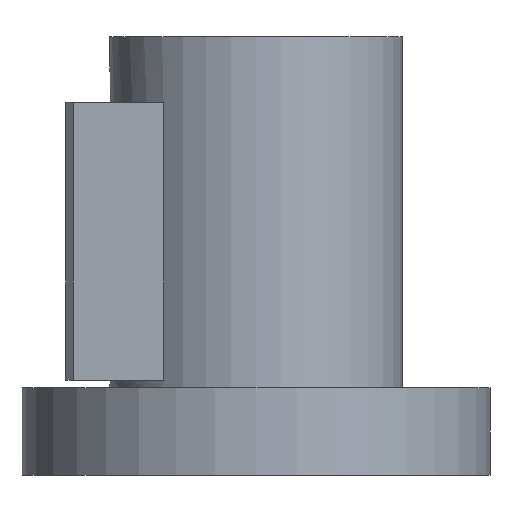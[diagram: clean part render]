
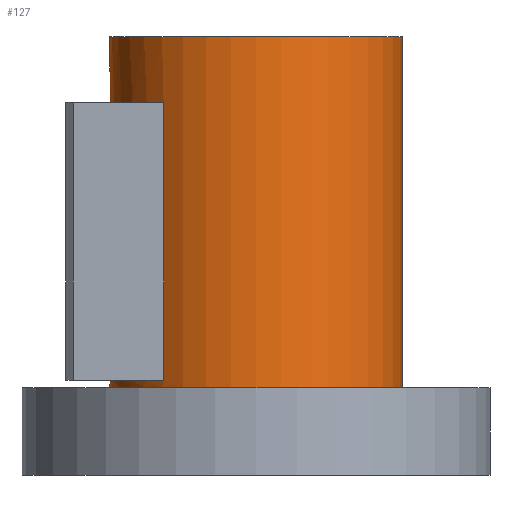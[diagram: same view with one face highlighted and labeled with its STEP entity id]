
A CAD part, front view. The second image highlights one B-rep face of the part: STEP entity #127.
In plain terms, the highlighted cylindrical face has radius 20 mm (diameter 40 mm), a full revolution.
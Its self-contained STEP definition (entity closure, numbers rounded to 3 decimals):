
#127=ADVANCED_FACE('',(#200,#201,#202),#155,.T.);
#155=CYLINDRICAL_SURFACE('',#508,20.);
#168=LINE('',#698,#184);
#169=LINE('',#702,#185);
#184=VECTOR('',#568,1.);
#185=VECTOR('',#571,1.);
#200=FACE_BOUND('',#245,.T.);
#201=FACE_BOUND('',#246,.T.);
#202=FACE_BOUND('',#247,.T.);
#245=EDGE_LOOP('',(#305));
#246=EDGE_LOOP('',(#306));
#247=EDGE_LOOP('',(#307,#308,#309,#310));
#305=ORIENTED_EDGE('',*,*,#431,.F.);
#306=ORIENTED_EDGE('',*,*,#432,.T.);
#307=ORIENTED_EDGE('',*,*,#433,.F.);
#308=ORIENTED_EDGE('',*,*,#434,.F.);
#309=ORIENTED_EDGE('',*,*,#435,.T.);
#310=ORIENTED_EDGE('',*,*,#436,.F.);
#393=VERTEX_POINT('',#692);
#394=VERTEX_POINT('',#694);
#395=VERTEX_POINT('',#696);
#396=VERTEX_POINT('',#697);
#397=VERTEX_POINT('',#699);
#398=VERTEX_POINT('',#701);
#431=EDGE_CURVE('',#393,#393,#475,.T.);
#432=EDGE_CURVE('',#394,#394,#476,.T.);
#433=EDGE_CURVE('',#395,#396,#477,.T.);
#434=EDGE_CURVE('',#397,#395,#168,.T.);
#435=EDGE_CURVE('',#397,#398,#478,.T.);
#436=EDGE_CURVE('',#396,#398,#169,.T.);
#475=CIRCLE('',#504,20.);
#476=CIRCLE('',#505,20.);
#477=CIRCLE('',#506,20.);
#478=CIRCLE('',#507,20.);
#504=AXIS2_PLACEMENT_3D('',#691,#562,#563);
#505=AXIS2_PLACEMENT_3D('',#693,#564,#565);
#506=AXIS2_PLACEMENT_3D('',#695,#566,#567);
#507=AXIS2_PLACEMENT_3D('',#700,#569,#570);
#508=AXIS2_PLACEMENT_3D('',#703,#572,#573);
#562=DIRECTION('',(0.,0.,1.));
#563=DIRECTION('',(1.,0.,0.));
#564=DIRECTION('',(0.,0.,1.));
#565=DIRECTION('',(1.,0.,0.));
#566=DIRECTION('',(0.,0.,-1.));
#567=DIRECTION('',(-1.,0.,0.));
#568=DIRECTION('',(0.,0.,1.));
#569=DIRECTION('',(0.,0.,-1.));
#570=DIRECTION('',(-1.,0.,0.));
#571=DIRECTION('',(0.,0.,-1.));
#572=DIRECTION('',(0.,0.,-1.));
#573=DIRECTION('',(-1.,0.,0.));
#691=CARTESIAN_POINT('',(0.,0.,60.));
#692=CARTESIAN_POINT('',(20.,0.,60.));
#693=CARTESIAN_POINT('',(0.,0.,12.));
#694=CARTESIAN_POINT('',(20.,0.,12.));
#695=CARTESIAN_POINT('',(0.,0.,51.));
#696=CARTESIAN_POINT('',(-12.639,-15.5,51.));
#697=CARTESIAN_POINT('',(-12.639,15.5,51.));
#698=CARTESIAN_POINT('',(-12.639,-15.5,60.));
#699=CARTESIAN_POINT('',(-12.639,-15.5,13.));
#700=CARTESIAN_POINT('',(0.,0.,13.));
#701=CARTESIAN_POINT('',(-12.639,15.5,13.));
#702=CARTESIAN_POINT('',(-12.639,15.5,60.));
#703=CARTESIAN_POINT('',(0.,0.,60.));
